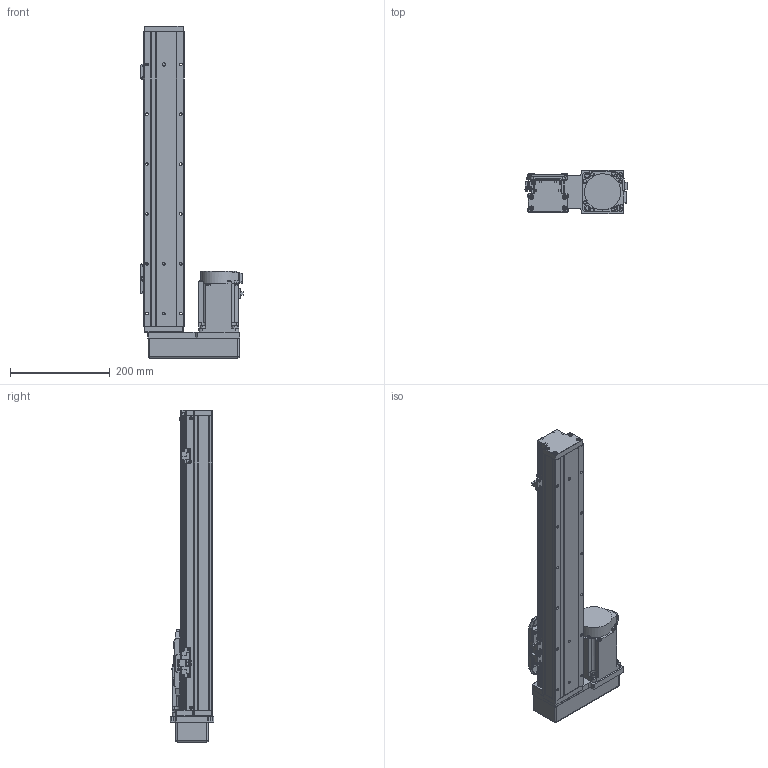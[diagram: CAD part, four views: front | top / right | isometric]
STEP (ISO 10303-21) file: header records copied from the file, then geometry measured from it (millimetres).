
FILE_DESCRIPTION (( 'STEP AP203' ), '1' );
FILE_NAME ('GTH8-400-BR-M75-C4.step', '2023-02-14T02:33:24', ( '微软用户' ), ( '微软中国' ), 'SwSTEP 2.0', 'SolidWorks 2020', '' );
FILE_SCHEMA (( 'CONFIG_CONTROL_DESIGN' ));
Length unit declared in the file: millimetre
Products named in the file (18): GTH80-013; GTH50-023; GBT 70.3-M3℅6; GBT96.1-2002 3×0.8; GTH80-022; BTH-M3X5X6; GTH80-001_400; GBT 70.1-M3℅6; CTHA86-015-3_CTHA86-015-4; GTH80-003; GBT 70.1-M4×16; CTHA86-035; GTH80-004; GTH80-028; hg-kn73j_-s100; GTH80-006; GTH50-024; GTH8-400-BR-M75-C4
Assembly tree (57 placements, depth 2):
  GTH8-400-BR-M75-C4
    GTH80-001_400
    GTH80-003
    GTH80-004
    GTH80-006
    GTH80-013
    GBT 70.3-M3℅6  x4
    GTH80-022
    GBT 70.1-M3℅6  x14
    GBT 70.1-M4×16  x8
    GTH80-028  x2
    GTH50-024  x3
    GTH50-023  x3
    GBT96.1-2002 3×0.8  x6
    BTH-M3X5X6  x8
    CTHA86-015-3_CTHA86-015-4
    CTHA86-035
    hg-kn73j_-s100
Bounding box: 204.7 x 87 x 666 mm (x, y, z)
Volume: 4102190.4 mm3; surface area: 438407.4 mm2
Topology: 59 solids, 59 shells, 2187 faces, 5070 edges, 3104 vertices
Faces by surface type: plane 1153, cylinder 619, cone 243, torus 158, sphere 12, bspline 2
Entity records: 39292 total; most frequent: CARTESIAN_POINT 6599, DIRECTION 6473, ORIENTED_EDGE 5950, EDGE_CURVE 2975, AXIS2_PLACEMENT_3D 2278, VECTOR 1917, LINE 1917, VERTEX_POINT 1879
